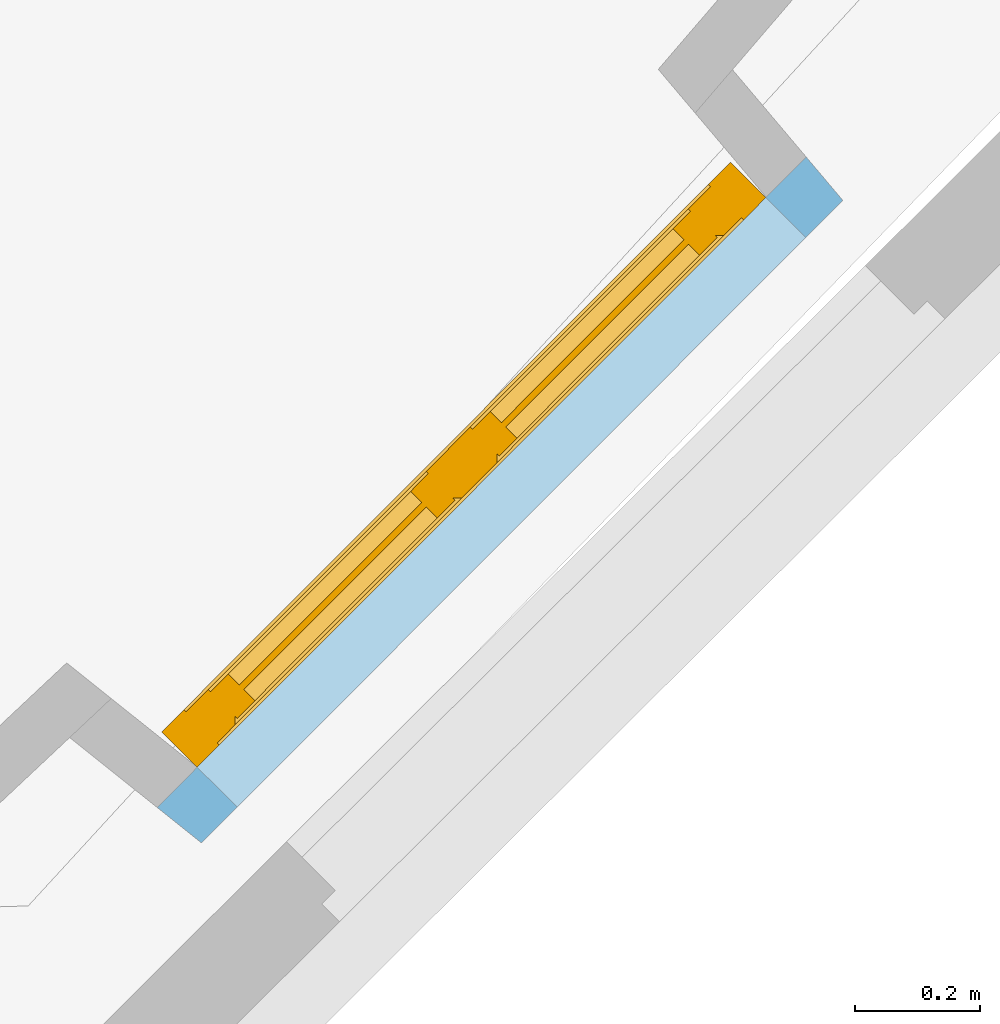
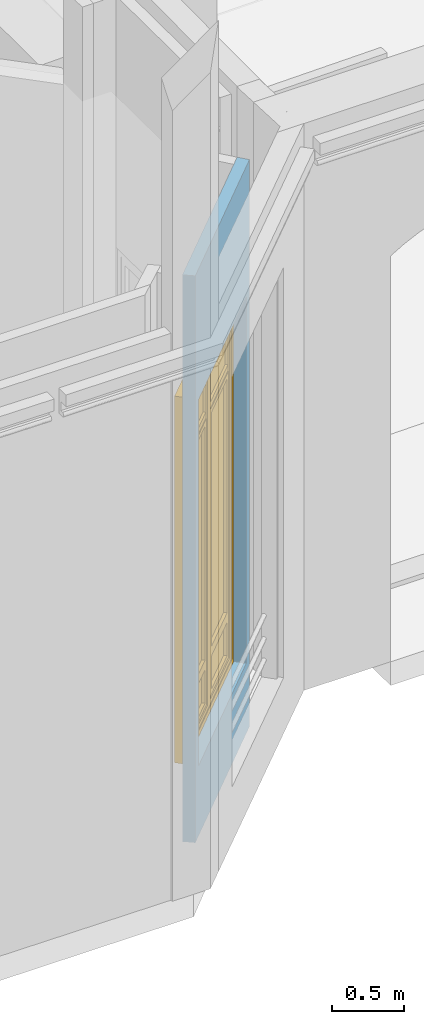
# One storey, part 42 of 97: 1 window, 2 openings, plus 1 element that does not belong to this part.
"""IFC2X3 building model written with IfcOpenShell, lengths in centimetres."""

from ifc_helpers import new_model, entity, si_unit, converted_unit, direction, frame, origin, origin_with_axes, place, context, subcontext, project, spatial, polyline, outline, extrude, faceted_brep, shape, source, transform, mapped, material, material_list, layer, layer_set, layer_usage, type_object, element, fill, save


model = new_model("IFC2X3")

# Units and contexts
model_context = context("Model", 3, precision=0.0001, world=origin(), true_north=direction((0.225632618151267, 0.974212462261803, 0.0)))
body_context = subcontext(model_context, "Body", "Model", "MODEL_VIEW")
footprint_context = subcontext(model_context, "FootPrint", "Model", "MODEL_VIEW")
profile_context = subcontext(model_context, "Profile", "Model", "MODEL_VIEW")
ifc_project = project(units=[si_unit("LENGTHUNIT", "METRE", prefix="CENTI"), si_unit("AREAUNIT", "SQUARE_METRE", prefix="CENTI"), si_unit("VOLUMEUNIT", "CUBIC_METRE", prefix="CENTI"), converted_unit("PLANEANGLEUNIT", "DEGREE", entity("IfcRatioMeasure", 0.0174532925), si_unit("PLANEANGLEUNIT", "RADIAN"), dimensions=[0, 0, 0, 0, 0, 0, 0])], contexts=[model_context])

# Site, building, storey
site_placement = place(None, origin_with_axes())
site = spatial("IfcSite", under=ifc_project, at=site_placement, Name="Default Site", CompositionType="ELEMENT")
building_placement = place(site_placement, origin_with_axes())
building = spatial("IfcBuilding", under=site, at=building_placement, Name="Default Building", CompositionType="ELEMENT")
storey_placement = place(building_placement, origin_with_axes())
storey = spatial("IfcBuildingStorey", under=building, at=storey_placement, Name="Rez-de-chaussée", CompositionType="ELEMENT", Elevation=0.0)

# Wall, openings, window
ifc_material_1 = material(Name="<aucun>")
ifc_layer = layer(ifc_material_1, 9.0)
ifc_layer_set = layer_set([ifc_layer], Name="default")
ifc_layer_usage = layer_usage(ifc_layer_set, "AXIS2", "POSITIVE", -4.5)
wall_type = type_object("IfcWallType", Name="default 90", PredefinedType="NOTDEFINED", material=ifc_layer_set)
wall_placement = place(storey_placement, frame((-815.548598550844, -1086.26791994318, 0.0128503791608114), z_axis=(0.0, 0.0, 1.0), x_axis=(0.70648067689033, 0.707732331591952, 0.0)))
wall = element("IfcWallStandardCase", 1, at=wall_placement, inside=storey, type_object=wall_type, material=ifc_layer_usage, Name="Enveloppe 7228", context=body_context, shape_type="SweptSolid", body=[
    extrude(outline(polyline([(-5.02731083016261, 4.50000000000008), (-4.02799840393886, -4.4999999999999), (140.7784894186, -4.50000000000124), (141.545997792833, 4.49999999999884), (-5.02731083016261, 4.50000000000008)])), origin_with_axes(), (0.0, 0.0, 1.0), 477.795358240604),
])
opening_1_placement = place(wall_placement, frame((8.17870308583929, 1.13686837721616e-13, 4.99583013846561e-14), z_axis=(0.0, 0.0, 1.0), x_axis=(1.0, -7.99360577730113e-15, 0.0)))
cartesian_point_1 = entity("IfcCartesianPoint", [-1.77635683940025e-13, -1.77635683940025e-13, 54.9])
cartesian_point_2 = entity("IfcCartesianPoint", [126.0, 4.4999999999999])
element("IfcOpeningElement", 2, at=opening_1_placement, cuts=wall, Name="Baie 41617", ObjectType="Recess", shapes=[
    shape(body_context, "Body", "Brep", [faceted_brep([(2.27199032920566e-05, 24.4999719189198, 54.9000028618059), (125.999997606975, 24.4999704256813, 54.9000028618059), (125.999997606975, 24.4999704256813, -4.62657695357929e-10), (2.27199032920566e-05, 24.4999719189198, -4.62657695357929e-10), (2.2471030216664e-05, 3.49997614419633, -4.62657695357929e-10), (2.2471030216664e-05, 3.49997614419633, 54.9000028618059), (125.999997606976, 24.4999926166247, -4.62657695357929e-10), (125.999989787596, 3.49996309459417, -4.62657695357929e-10), (-1.87871000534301e-05, 3.49997614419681, -4.62657695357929e-10), (125.999997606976, 24.4999926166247, 54.9000028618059), (125.999997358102, 3.49996309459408, 54.9000028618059), (125.999997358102, 3.49996309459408, -4.62657695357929e-10), (-1.87871000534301e-05, 3.49997614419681, 54.9000028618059), (125.999989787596, 3.49996309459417, 54.9000028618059), (125.999989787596, 3.49997465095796, -4.62657695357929e-10), (125.999989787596, 3.49997465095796, 54.9000028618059)], [[[0, 1, 2, 3]], [[3, 4, 5, 0]], [[6, 7, 8, 3]], [[9, 10, 11, 6]], [[0, 12, 13, 9]], [[12, 8, 14, 15]]])]),
    shape(profile_context, "Profile", "GeometricCurveSet", [entity("IfcGeometricCurveSet", [entity("IfcPolyline", [cartesian_point_1, entity("IfcCartesianPoint", [-1.77635683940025e-13, -1.77635683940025e-13, 0.0]), entity("IfcCartesianPoint", [126.0, -1.77635683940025e-13, 0.0]), entity("IfcCartesianPoint", [126.0, -1.77635683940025e-13, 54.9]), cartesian_point_1])])]),
    shape(footprint_context, "FootPrint", "GeometricCurveSet", [entity("IfcGeometricCurveSet", [entity("IfcPolyline", [cartesian_point_2, entity("IfcCartesianPoint", [-1.77635683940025e-13, 4.4999999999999]), entity("IfcCartesianPoint", [-1.77635683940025e-13, -4.50000000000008]), entity("IfcCartesianPoint", [126.0, -4.50000000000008]), cartesian_point_2])])]),
])
opening_2_placement = place(wall_placement, frame((4.02799840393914, 1.13686837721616e-13, 59.0202325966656), z_axis=(0.0, 0.0, 1.0), x_axis=(1.0, -7.99360577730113e-15, 0.0)))
cartesian_point_3 = entity("IfcCartesianPoint", [-1.77635683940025e-13, -1.77635683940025e-13, 309.0])
cartesian_point_4 = entity("IfcCartesianPoint", [128.38810224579, 4.4999999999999])
opening_2 = element("IfcOpeningElement", 3, at=opening_2_placement, cuts=wall, Name="4294966452_11", ObjectType="Opening", shapes=[
    shape(body_context, "Body", "SweptSolid", [extrude(outline(polyline([(-1.77635683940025e-13, 309.0), (-1.77635683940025e-13, 0.0), (128.38810224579, 0.0), (128.38810224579, 309.0), (-1.77635683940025e-13, 309.0)])), frame((0.0, 14.5, 0.0), z_axis=(0.0, -1.0, 0.0), x_axis=(1.0, 0.0, 0.0)), (0.0, 0.0, 1.0), 29.0)]),
    shape(profile_context, "Profile", "GeometricCurveSet", [entity("IfcGeometricCurveSet", [entity("IfcPolyline", [cartesian_point_3, entity("IfcCartesianPoint", [-1.77635683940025e-13, -1.77635683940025e-13, 0.0]), entity("IfcCartesianPoint", [128.38810224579, 0.0, 0.0]), entity("IfcCartesianPoint", [128.38810224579, -8.88178419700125e-14, 309.0]), cartesian_point_3])])]),
    shape(footprint_context, "FootPrint", "GeometricCurveSet", [entity("IfcGeometricCurveSet", [entity("IfcPolyline", [cartesian_point_4, entity("IfcCartesianPoint", [-1.77635683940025e-13, 4.4999999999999]), entity("IfcCartesianPoint", [-1.77635683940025e-13, -4.50000000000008]), entity("IfcCartesianPoint", [128.38810224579, -4.49999999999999]), cartesian_point_4])])]),
])
ifc_material_2 = material(Name="Transparent")
ifc_material_3 = material(Name="Blanc trafic")
ifc_material_4 = material(Name="Aluminium satiné")
ifc_material_5 = material(Name="Blanc trafic")
ifc_material_list = material_list([ifc_material_2, ifc_material_3, ifc_material_4, ifc_material_5])
window_style = type_object("IfcWindowStyle", Name="FN[R] 2VB[2V] MM", ConstructionType="NOTDEFINED", OperationType="NOTDEFINED", ParameterTakesPrecedence=False, Sizeable=False, material=ifc_material_list)
shared_shape = source(origin_with_axes(), body_context, "Body", "Brep", [
    faceted_brep([(-59.1940522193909, 303.999996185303, -3.99999991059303), (-59.1940522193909, 303.999996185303, 3.99999991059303), (-59.1940522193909, 5.00000007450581, 3.99999991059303), (-59.1940522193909, 5.00000007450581, -3.99999991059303), (-64.1940534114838, 308.999991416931, 3.99999991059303), (-64.1940534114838, 0.0, 3.99999991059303), (-64.1940534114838, 308.999991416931, -3.99999991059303), (-64.1940534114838, 6.38236949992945e-30, -3.99999991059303), (-64.1940534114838, 6.38236949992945e-30, 3.99999991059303), (-64.1940534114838, 0.0, -3.99999991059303), (59.1940522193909, 5.00000007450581, 3.99999991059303), (59.1940522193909, 5.00000007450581, -3.99999991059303), (64.1940534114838, 0.0, 3.99999991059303), (64.1940534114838, 0.0, -3.99999991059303), (59.194052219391, 303.999996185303, 3.99999991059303), (59.194052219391, 303.999996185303, -3.99999991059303), (64.1940534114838, 308.999991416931, 3.99999991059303), (59.1940522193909, 303.999996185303, 3.99999991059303), (64.1940534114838, 308.999991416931, -3.99999991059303), (59.1940522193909, 303.999996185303, -3.99999991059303)], [[[0, 1, 2, 3]], [[1, 4, 5, 2]], [[4, 6, 7, 8]], [[6, 0, 3, 9]], [[3, 2, 10, 11]], [[2, 5, 12, 10]], [[5, 9, 13, 12]], [[9, 3, 11, 13]], [[11, 10, 14, 15]], [[10, 12, 16, 17]], [[12, 13, 18, 16]], [[13, 11, 19, 18]], [[19, 17, 1, 0]], [[17, 16, 4, 1]], [[16, 18, 6, 4]], [[18, 19, 0, 6]]]),
    faceted_brep([(-55.1940500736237, 300.0, -3.50000001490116), (-54.1940505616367, 299.000000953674, -2.50000050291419), (-54.1940505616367, 10.0000001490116, -2.50000050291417), (-55.1940500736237, 9.00000035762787, -3.50000001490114), (-54.194051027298, 299.000000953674, -2.5000000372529), (-54.194051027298, 299.000000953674, 3.50000001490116), (-54.194051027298, 10.0000001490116, 3.50000001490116), (-54.194051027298, 10.0000001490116, -2.5000000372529), (-59.1940522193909, 303.999996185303, 3.50000001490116), (-59.1940522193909, 5.00000007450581, 3.50000001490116), (-59.1940522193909, 303.999996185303, -3.50000001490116), (-59.1940522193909, 5.00000007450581, -3.50000001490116), (-55.1940500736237, 9.00000035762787, -3.50000001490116), (-54.194051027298, 10.0000002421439, -2.50000013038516), (-5.00000007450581, 10.0000002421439, -2.50000013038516), (-3.99999991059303, 9.00000035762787, -3.50000001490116), (-5.00000007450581, 10.0000001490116, 3.50000001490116), (-5.00000007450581, 10.0000001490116, -2.5000000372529), (-1.88737914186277e-13, 5.00000007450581, 3.50000001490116), (-1.88737914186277e-13, 5.00000007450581, -3.50000001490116), (-4.99999998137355, 10.0000001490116, -2.49999994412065), (-4.9999999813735, 299.000000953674, -2.4999999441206), (-3.99999991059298, 300.0, -3.50000001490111), (-5.00000007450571, 299.000000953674, 3.50000001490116), (-5.00000007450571, 299.000000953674, -2.5000000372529), (-1.66533453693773e-13, 303.999996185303, 3.50000001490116), (-5.00000007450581, 299.000000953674, 3.50000001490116), (-1.66533454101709e-13, 303.999996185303, -3.50000001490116), (-1.66533454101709e-13, 303.999996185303, 3.50000001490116), (-3.99999991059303, 300.0, -3.50000001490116), (-1.66533453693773e-13, 303.999996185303, -3.50000001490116), (-5.00000007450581, 299.000000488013, -2.5000005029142), (-54.194051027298, 299.000000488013, -2.5000005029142), (-5.00000007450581, 299.000000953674, -2.5000000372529)], [[[0, 1, 2, 3]], [[4, 5, 6, 7]], [[5, 8, 9, 6]], [[8, 10, 11, 9]], [[10, 0, 12, 11]], [[12, 13, 14, 15]], [[7, 6, 16, 17]], [[6, 9, 18, 16]], [[9, 11, 19, 18]], [[11, 12, 15, 19]], [[15, 20, 21, 22]], [[17, 16, 23, 24]], [[16, 18, 25, 26]], [[18, 19, 27, 28]], [[19, 15, 29, 30]], [[29, 31, 32, 0]], [[33, 26, 5, 4]], [[26, 25, 8, 5]], [[25, 30, 10, 8]], [[30, 29, 0, 10]]]),
    faceted_brep([(-5.00000007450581, 299.000000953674, -0.499999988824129), (-5.00000007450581, 256.399989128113, -0.499999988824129), (-54.194051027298, 256.399989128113, -0.499999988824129), (-54.194051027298, 299.000000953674, -0.499999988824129), (-54.194051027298, 299.000000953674, 0.499999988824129), (-54.194051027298, 256.399989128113, 0.499999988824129), (-5.00000007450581, 256.399989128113, 0.499999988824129), (-5.00000007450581, 299.000000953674, 0.499999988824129)], [[[0, 1, 2, 3]], [[4, 5, 6, 7]], [[3, 2, 5, 4]], [[2, 1, 6, 5]], [[1, 0, 7, 6]], [[0, 3, 4, 7]]]),
    faceted_brep([(-5.00000007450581, 251.399993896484, 2.5000000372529), (-5.00000007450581, 251.399993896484, -2.5000000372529), (-5.00000007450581, 256.399989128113, -2.5000000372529), (-5.00000007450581, 256.399989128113, 2.5000000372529), (-54.194051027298, 256.399989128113, 2.5000000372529), (-54.194051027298, 256.399989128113, -2.5000000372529), (-54.194051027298, 251.399993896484, -2.5000000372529), (-54.194051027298, 251.399993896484, 2.5000000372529)], [[[0, 1, 2, 3]], [[4, 5, 6, 7]], [[3, 2, 5, 4]], [[2, 1, 6, 5]], [[1, 0, 7, 6]], [[0, 3, 4, 7]]]),
    faceted_brep([(-50.1940488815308, 247.399997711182, -2.99999993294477), (-50.1940488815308, 247.399997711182, 2.99999993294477), (-50.1940488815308, 50.2099990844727, 2.99999993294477), (-50.1940488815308, 50.2099990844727, -2.99999993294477), (-54.194051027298, 251.399993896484, 2.99999993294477), (-54.194051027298, 46.2099999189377, 2.99999993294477), (-54.194051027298, 251.399993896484, -2.99999993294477), (-54.194051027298, 46.2099999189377, -2.99999993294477), (-9.00000035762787, 50.2099990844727, 2.99999993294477), (-9.00000035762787, 50.2099990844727, -2.99999993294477), (-5.00000007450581, 46.2099999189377, 2.99999993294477), (-5.00000007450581, 46.2099999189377, -2.99999993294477), (-9.00000035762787, 247.399997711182, 2.99999993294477), (-9.00000035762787, 247.399997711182, -2.99999993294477), (-5.00000007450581, 251.399993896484, 2.99999993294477), (-5.0000000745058, 251.399993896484, -2.99999993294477), (-5.0000000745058, 251.399993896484, 2.99999993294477), (-5.00000007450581, 251.399993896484, -2.99999993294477)], [[[0, 1, 2, 3]], [[1, 4, 5, 2]], [[4, 6, 7, 5]], [[6, 0, 3, 7]], [[3, 2, 8, 9]], [[2, 5, 10, 8]], [[5, 7, 11, 10]], [[7, 3, 9, 11]], [[9, 8, 12, 13]], [[8, 10, 14, 12]], [[10, 11, 15, 16]], [[11, 9, 13, 17]], [[13, 12, 1, 0]], [[12, 14, 4, 1]], [[14, 17, 6, 4]], [[17, 13, 0, 6]]]),
    faceted_brep([(-9.00000035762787, 247.399997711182, -0.499999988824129), (-9.00000035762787, 50.2099990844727, -0.499999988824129), (-50.1940488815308, 50.2099990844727, -0.499999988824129), (-50.1940488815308, 247.399997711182, -0.499999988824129), (-50.1940488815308, 247.399997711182, 0.499999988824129), (-50.1940488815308, 50.2099990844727, 0.499999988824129), (-9.00000035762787, 50.2099990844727, 0.499999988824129), (-9.00000035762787, 247.399997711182, 0.499999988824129), (-9.00000035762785, 247.399997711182, -0.499999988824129), (-9.00000035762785, 247.399997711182, 0.499999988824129)], [[[0, 1, 2, 3]], [[4, 5, 6, 7]], [[3, 2, 5, 4]], [[2, 1, 6, 5]], [[1, 8, 9, 6]], [[0, 3, 4, 7]]]),
    faceted_brep([(-50.1940488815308, 42.2100007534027, -2.99999993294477), (-50.1940488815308, 42.2100007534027, 2.99999993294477), (-50.1940488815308, 14.0000000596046, 2.99999993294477), (-50.1940488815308, 14.0000000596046, -2.99999993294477), (-54.194051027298, 46.2099999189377, 2.99999993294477), (-54.194051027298, 10.0000001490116, 2.99999993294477), (-54.194051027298, 46.2099999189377, -2.99999993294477), (-54.194051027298, 10.0000001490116, -2.99999993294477), (-9.00000035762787, 14.0000000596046, 2.99999993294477), (-9.00000035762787, 14.0000000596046, -2.99999993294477), (-5.00000007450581, 10.0000001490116, 2.99999993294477), (-5.00000007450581, 10.0000001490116, -2.99999993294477), (-9.00000035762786, 42.2100007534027, 2.99999993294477), (-9.00000035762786, 42.2100007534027, -2.99999993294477), (-5.00000007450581, 46.2099999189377, 2.99999993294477), (-9.00000035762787, 42.2100007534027, 2.99999993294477), (-5.0000000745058, 46.2099999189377, -2.99999993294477), (-5.0000000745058, 46.2099999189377, 2.99999993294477), (-9.00000035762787, 42.2100007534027, -2.99999993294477), (-5.00000007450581, 46.2099999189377, -2.99999993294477)], [[[0, 1, 2, 3]], [[1, 4, 5, 2]], [[4, 6, 7, 5]], [[6, 0, 3, 7]], [[3, 2, 8, 9]], [[2, 5, 10, 8]], [[5, 7, 11, 10]], [[7, 3, 9, 11]], [[9, 8, 12, 13]], [[8, 10, 14, 15]], [[10, 11, 16, 17]], [[11, 9, 18, 19]], [[18, 15, 1, 0]], [[15, 14, 4, 1]], [[14, 19, 6, 4]], [[19, 18, 0, 6]]]),
    faceted_brep([(-9.00000035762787, 42.2100007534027, -0.499999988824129), (-9.00000035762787, 14.0000000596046, -0.499999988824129), (-50.1940488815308, 14.0000000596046, -0.499999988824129), (-50.1940488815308, 42.2100007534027, -0.499999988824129), (-50.1940488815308, 42.2100007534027, 0.499999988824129), (-50.1940488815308, 14.0000000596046, 0.499999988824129), (-9.00000035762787, 14.0000000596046, 0.499999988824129), (-9.00000035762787, 42.2100007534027, 0.499999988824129)], [[[0, 1, 2, 3]], [[4, 5, 6, 7]], [[3, 2, 5, 4]], [[2, 1, 6, 5]], [[1, 0, 7, 6]], [[0, 3, 4, 7]]]),
    faceted_brep([(3.99999991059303, 300.0, -3.50000001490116), (4.99999998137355, 299.000000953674, -2.49999994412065), (4.99999998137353, 10.0000001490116, -2.49999994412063), (3.99999991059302, 9.00000035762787, -3.50000001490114), (5.00000007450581, 299.000000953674, -2.5000000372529), (5.00000007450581, 299.000000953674, 3.50000001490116), (5.00000007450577, 10.0000001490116, 3.50000001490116), (5.00000007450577, 10.0000001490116, -2.5000000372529), (-1.66533453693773e-13, 303.999996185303, 3.50000001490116), (-1.88737914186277e-13, 5.00000007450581, 3.50000001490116), (5.00000007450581, 10.0000001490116, 3.50000001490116), (-1.66533453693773e-13, 303.999996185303, -3.50000001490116), (-1.88737913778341e-13, 5.00000007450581, -3.50000001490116), (-1.88737913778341e-13, 5.00000007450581, 3.50000001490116), (3.99999991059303, 9.00000035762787, -3.50000001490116), (-1.88737914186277e-13, 5.00000007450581, -3.50000001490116), (5.00000007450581, 10.0000002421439, -2.50000013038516), (54.194051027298, 10.0000002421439, -2.50000013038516), (55.1940500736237, 9.00000035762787, -3.50000001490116), (5.00000007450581, 10.0000001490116, -2.5000000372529), (54.194051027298, 10.0000001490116, 3.50000001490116), (54.194051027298, 10.0000001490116, -2.5000000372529), (59.1940522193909, 5.00000007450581, 3.50000001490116), (59.1940522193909, 5.00000007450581, -3.50000001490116), (54.1940505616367, 10.0000001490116, -2.50000050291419), (54.1940505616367, 299.000000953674, -2.50000050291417), (55.1940500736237, 300.0, -3.50000001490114), (54.194051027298, 299.000000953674, 3.50000001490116), (54.194051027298, 299.000000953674, -2.5000000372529), (59.1940522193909, 303.999996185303, 3.50000001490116), (59.1940522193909, 303.999996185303, -3.50000001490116), (55.1940500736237, 300.0, -3.50000001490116), (54.194051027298, 299.000000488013, -2.5000005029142), (5.00000007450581, 299.000000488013, -2.50000050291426), (3.99999991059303, 300.0, -3.50000001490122)], [[[0, 1, 2, 3]], [[4, 5, 6, 7]], [[5, 8, 9, 10]], [[8, 11, 12, 13]], [[11, 0, 14, 15]], [[14, 16, 17, 18]], [[19, 10, 20, 21]], [[10, 9, 22, 20]], [[9, 15, 23, 22]], [[15, 14, 18, 23]], [[18, 24, 25, 26]], [[21, 20, 27, 28]], [[20, 22, 29, 27]], [[22, 23, 30, 29]], [[23, 18, 31, 30]], [[31, 32, 33, 34]], [[28, 27, 5, 4]], [[27, 29, 8, 5]], [[29, 30, 11, 8]], [[30, 31, 0, 11]]]),
    faceted_brep([(4.50000017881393, 156.500005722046, 3.50000001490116), (4.50000017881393, 152.499997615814, 3.50000001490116), (0.499999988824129, 152.499997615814, 3.50000001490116), (0.499999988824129, 156.500005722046, 3.50000001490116), (0.499999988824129, 156.500005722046, 4.30000014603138), (0.499999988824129, 152.499997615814, 4.30000014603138), (4.50000017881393, 152.499997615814, 4.30000014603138), (4.50000017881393, 156.500005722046, 4.30000014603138)], [[[0, 1, 2, 3]], [[4, 5, 6, 7]], [[3, 2, 5, 4]], [[2, 1, 6, 5]], [[1, 0, 7, 6]], [[0, 3, 4, 7]]]),
    faceted_brep([(3.24999988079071, 154.999995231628, 4.30000014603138), (3.24999988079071, 153.999996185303, 4.30000014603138), (1.75000000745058, 153.999996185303, 4.30000014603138), (1.75000000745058, 154.999995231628, 4.30000014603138), (1.75000000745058, 154.999995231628, 8.29999968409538), (1.75000000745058, 153.999995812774, 7.30000026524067), (3.24999988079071, 153.999995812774, 7.30000026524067), (3.24999988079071, 154.999995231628, 8.29999968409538), (1.75000000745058, 153.999996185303, 7.29999989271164), (3.24999988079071, 153.999996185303, 7.29999989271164)], [[[0, 1, 2, 3]], [[4, 5, 6, 7]], [[3, 2, 8, 4]], [[2, 1, 9, 8]], [[1, 0, 7, 9]], [[0, 3, 4, 7]]]),
    faceted_brep([(3.24999988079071, 154.999995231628, 8.29999968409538), (3.24999988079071, 153.999995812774, 7.30000026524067), (1.75000000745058, 153.999995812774, 7.30000026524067), (1.75000000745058, 154.999995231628, 8.29999968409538), (1.75000000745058, 141.999995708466, 8.29999968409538), (1.75000000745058, 141.999995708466, 7.29999989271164), (3.24999988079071, 141.999995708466, 7.29999989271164), (3.24999988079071, 141.999995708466, 8.29999968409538), (1.75000000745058, 153.999996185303, 7.29999989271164), (3.24999988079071, 153.999996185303, 7.29999989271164)], [[[0, 1, 2, 3]], [[4, 5, 6, 7]], [[3, 8, 5, 4]], [[8, 9, 6, 5]], [[9, 0, 7, 6]], [[0, 3, 4, 7]]]),
    faceted_brep([(54.194051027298, 299.000000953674, -0.499999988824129), (54.194051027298, 256.399989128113, -0.499999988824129), (5.00000007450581, 256.399989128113, -0.499999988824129), (5.00000007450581, 299.000000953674, -0.499999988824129), (5.00000007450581, 299.000000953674, 0.499999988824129), (5.00000007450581, 256.399989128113, 0.499999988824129), (54.194051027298, 256.399989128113, 0.499999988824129), (54.194051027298, 299.000000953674, 0.499999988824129), (5.0000000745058, 256.399989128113, -0.499999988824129), (5.0000000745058, 256.399989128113, 0.499999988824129)], [[[0, 1, 2, 3]], [[4, 5, 6, 7]], [[3, 8, 9, 4]], [[2, 1, 6, 5]], [[1, 0, 7, 6]], [[0, 3, 4, 7]]]),
    faceted_brep([(54.194051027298, 251.399993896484, 2.5000000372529), (54.194051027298, 251.399993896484, -2.5000000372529), (54.194051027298, 256.399989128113, -2.5000000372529), (54.194051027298, 256.399989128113, 2.5000000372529), (5.00000007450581, 256.399989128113, 2.5000000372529), (5.00000007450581, 256.399989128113, -2.5000000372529), (5.00000007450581, 251.399993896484, -2.5000000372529), (5.00000007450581, 251.399993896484, 2.5000000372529)], [[[0, 1, 2, 3]], [[4, 5, 6, 7]], [[3, 2, 5, 4]], [[2, 1, 6, 5]], [[1, 0, 7, 6]], [[0, 3, 4, 7]]]),
    faceted_brep([(9.00000035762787, 247.399997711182, -2.99999993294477), (9.00000035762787, 247.399997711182, 2.99999993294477), (9.00000035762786, 50.2099990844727, 2.99999993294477), (9.00000035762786, 50.2099990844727, -2.99999993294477), (5.00000007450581, 251.399993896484, 2.99999993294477), (5.00000007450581, 46.2099999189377, 2.99999993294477), (9.00000035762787, 50.2099990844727, 2.99999993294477), (5.00000007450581, 251.399993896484, -2.99999993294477), (5.0000000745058, 46.2099999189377, -2.99999993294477), (5.0000000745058, 46.2099999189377, 2.99999993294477), (9.00000035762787, 50.2099990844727, -2.99999993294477), (5.00000007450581, 46.2099999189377, -2.99999993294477), (50.1940488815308, 50.2099990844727, 2.99999993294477), (50.1940488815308, 50.2099990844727, -2.99999993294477), (54.194051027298, 46.2099999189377, 2.99999993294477), (54.194051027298, 46.2099999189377, -2.99999993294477), (50.1940488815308, 247.399997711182, 2.99999993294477), (50.1940488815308, 247.399997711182, -2.99999993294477), (54.194051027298, 251.399993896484, 2.99999993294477), (54.194051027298, 251.399993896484, -2.99999993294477)], [[[0, 1, 2, 3]], [[1, 4, 5, 6]], [[4, 7, 8, 9]], [[7, 0, 10, 11]], [[10, 6, 12, 13]], [[6, 5, 14, 12]], [[5, 11, 15, 14]], [[11, 10, 13, 15]], [[13, 12, 16, 17]], [[12, 14, 18, 16]], [[14, 15, 19, 18]], [[15, 13, 17, 19]], [[17, 16, 1, 0]], [[16, 18, 4, 1]], [[18, 19, 7, 4]], [[19, 17, 0, 7]]]),
    faceted_brep([(50.1940488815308, 247.399997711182, -0.499999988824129), (50.1940488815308, 50.2099990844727, -0.499999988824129), (9.00000035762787, 50.2099990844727, -0.499999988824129), (9.00000035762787, 247.399997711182, -0.499999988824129), (9.00000035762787, 247.399997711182, 0.499999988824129), (9.00000035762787, 50.2099990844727, 0.499999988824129), (50.1940488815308, 50.2099990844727, 0.499999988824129), (50.1940488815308, 247.399997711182, 0.499999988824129), (9.00000035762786, 50.2099990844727, -0.499999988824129), (9.00000035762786, 50.2099990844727, 0.499999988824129)], [[[0, 1, 2, 3]], [[4, 5, 6, 7]], [[3, 8, 9, 4]], [[2, 1, 6, 5]], [[1, 0, 7, 6]], [[0, 3, 4, 7]]]),
    faceted_brep([(9.00000035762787, 42.2100007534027, -2.99999993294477), (9.00000035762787, 42.2100007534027, 2.99999993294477), (9.00000035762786, 14.0000000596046, 2.99999993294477), (9.00000035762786, 14.0000000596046, -2.99999993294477), (5.00000007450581, 46.2099999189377, 2.99999993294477), (5.00000007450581, 10.0000001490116, 2.99999993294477), (9.00000035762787, 14.0000000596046, 2.99999993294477), (5.00000007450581, 46.2099999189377, -2.99999993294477), (5.00000007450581, 10.0000001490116, -2.99999993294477), (9.00000035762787, 14.0000000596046, -2.99999993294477), (50.1940488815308, 14.0000000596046, 2.99999993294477), (50.1940488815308, 14.0000000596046, -2.99999993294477), (54.194051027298, 10.0000001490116, 2.99999993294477), (54.194051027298, 10.0000001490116, -2.99999993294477), (50.1940488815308, 42.2100007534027, 2.99999993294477), (50.1940488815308, 42.2100007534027, -2.99999993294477), (54.194051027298, 46.2099999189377, 2.99999993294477), (54.194051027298, 46.2099999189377, -2.99999993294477)], [[[0, 1, 2, 3]], [[1, 4, 5, 6]], [[4, 7, 8, 5]], [[7, 0, 9, 8]], [[9, 6, 10, 11]], [[6, 5, 12, 10]], [[5, 8, 13, 12]], [[8, 9, 11, 13]], [[11, 10, 14, 15]], [[10, 12, 16, 14]], [[12, 13, 17, 16]], [[13, 11, 15, 17]], [[15, 14, 1, 0]], [[14, 16, 4, 1]], [[16, 17, 7, 4]], [[17, 15, 0, 7]]]),
    faceted_brep([(50.1940488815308, 42.2100007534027, -0.499999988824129), (50.1940488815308, 14.0000000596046, -0.499999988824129), (9.00000035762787, 14.0000000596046, -0.499999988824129), (9.00000035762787, 42.2100007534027, -0.499999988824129), (9.00000035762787, 42.2100007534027, 0.499999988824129), (9.00000035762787, 14.0000000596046, 0.499999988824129), (50.1940488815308, 14.0000000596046, 0.499999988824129), (50.1940488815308, 42.2100007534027, 0.499999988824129), (9.00000035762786, 14.0000000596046, -0.499999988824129), (9.00000035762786, 14.0000000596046, 0.499999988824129)], [[[0, 1, 2, 3]], [[4, 5, 6, 7]], [[3, 8, 9, 4]], [[2, 1, 6, 5]], [[1, 0, 7, 6]], [[0, 3, 4, 7]]]),
])
window_placement = place(opening_2_placement, frame((-2.27373675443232e-13, 4.50000000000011, -7.105427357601e-15), z_axis=(0.0, 0.0, 1.0), x_axis=(1.0, 0.0, 0.0)))
window = element("IfcWindow", 4, at=window_placement, inside=storey, type_object=window_style, material=ifc_material_list, Name="Fenêtre 23874", OverallHeight=309.0, OverallWidth=128.38810224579, context=body_context, shape_type="MappedRepresentation", body=[
    mapped(shared_shape, transform((64.1940511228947, 3.99999999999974, 0.0), x_axis=(-1.0, 0.0, 0.0), y_axis=(0.0, 0.0, 1.0), z_axis=(0.0, 1.0, 0.0), scale=1.0, scale2=1.0, scale3=1.0, uniform=False)),
])
fill(opening_2, window)

save(model, "model.ifc")
